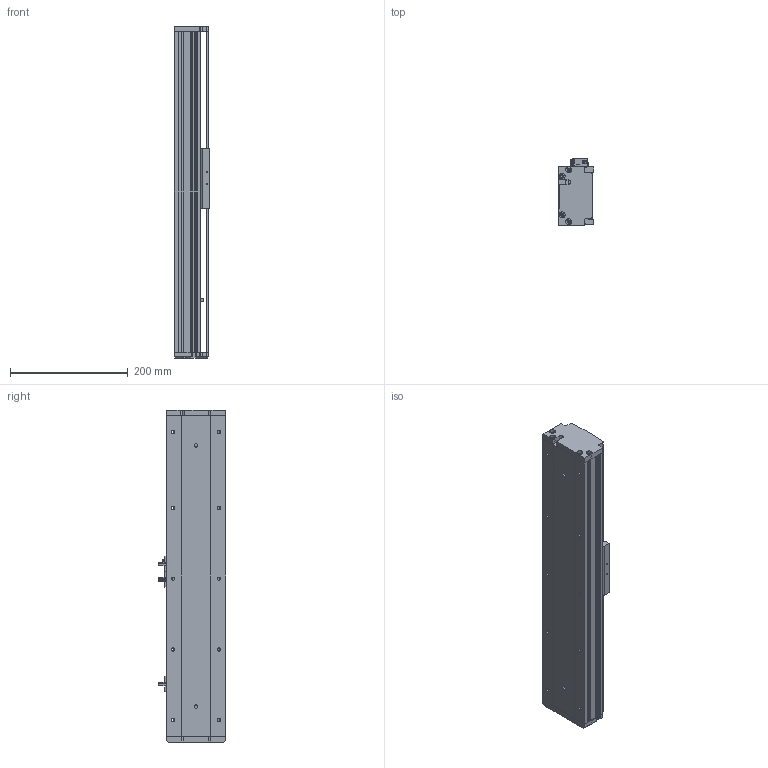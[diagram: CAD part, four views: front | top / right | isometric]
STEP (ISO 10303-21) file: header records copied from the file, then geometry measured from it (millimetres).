
FILE_DESCRIPTION (( 'STEP AP214' ), '1' );
FILE_NAME ('KSD100S-S200-M-CM.STEP', '2019-08-29T08:25:26', ( '微软用户' ), ( '微软中国' ), 'SwSTEP 2.0', 'SolidWorks 2014', '' );
FILE_SCHEMA (( 'AUTOMOTIVE_DESIGN' ));
Length unit declared in the file: millimetre
Products named in the file (8): 覜茼え100遵圉猾敕; U倰嫖萇EEㄜSX672; 100宽防尘板丝杆200行程电机内装; 100宽马达安装板-电机内装; 100宽滚珠螺姆安装板半封闭; 100遵傷啣; 100宽底板半封闭丝杆200行程电机内装; KSD100S-S200-M-CM
Assembly tree (9 placements, depth 2):
  KSD100S-S200-M-CM
    100宽底板半封闭丝杆200行程电机内装
    100遵傷啣
    100宽滚珠螺姆安装板半封闭
    100宽马达安装板-电机内装
    100宽防尘板丝杆200行程电机内装
    U倰嫖萇EEㄜSX672  x3
    覜茼え100遵圉猾敕
Bounding box: 60 x 113.7 x 563 mm (x, y, z)
Volume: 1172206.6 mm3; surface area: 423555.9 mm2
Topology: 9 solids, 9 shells, 953 faces, 2696 edges, 1713 vertices
Faces by surface type: plane 432, cylinder 424, cone 97
Entity records: 31914 total; most frequent: CARTESIAN_POINT 6072, DIRECTION 4193, ORIENTED_EDGE 4100, EDGE_CURVE 2050, AXIS2_PLACEMENT_3D 1486, VERTEX_POINT 1337, VECTOR 1221, LINE 1221
